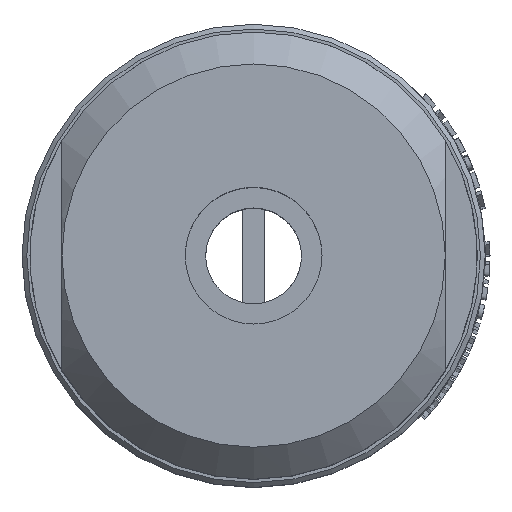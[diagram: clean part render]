
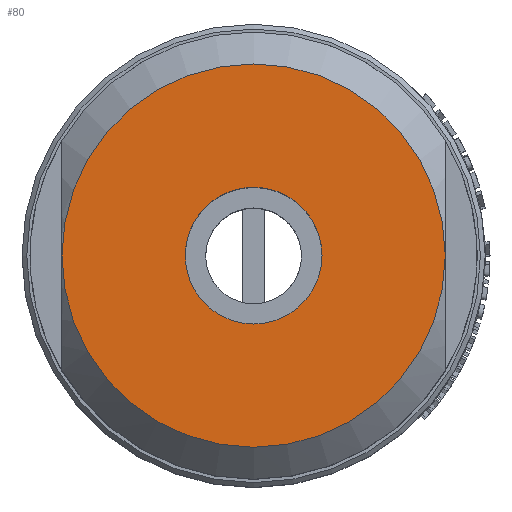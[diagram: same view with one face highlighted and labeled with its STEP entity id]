
A CAD part, top view. The second image highlights one B-rep face of the part: STEP entity #80.
In plain terms, the highlighted planar face has unit normal (0, 0, 1).
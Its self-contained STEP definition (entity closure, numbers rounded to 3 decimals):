
#80 = ADVANCED_FACE( '', ( #169, #170 ), #171, .F. );
#169 = FACE_BOUND( '', #291, .T. );
#170 = FACE_OUTER_BOUND( '', #292, .T. );
#171 = PLANE( '', #293 );
#291 = EDGE_LOOP( '', ( #632 ) );
#292 = EDGE_LOOP( '', ( #633, #634 ) );
#293 = AXIS2_PLACEMENT_3D( '', #635, #636, #637 );
#632 = ORIENTED_EDGE( '', *, *, #1269, .T. );
#633 = ORIENTED_EDGE( '', *, *, #1277, .T. );
#634 = ORIENTED_EDGE( '', *, *, #1278, .T. );
#635 = CARTESIAN_POINT( '', ( 12., 0., 8.1 ) );
#636 = DIRECTION( '', ( 0., 0., -1. ) );
#637 = DIRECTION( '', ( -1., 0., 0. ) );
#1269 = EDGE_CURVE( '', #4550, #4550, #4551, .T. );
#1277 = EDGE_CURVE( '', #4563, #4564, #4565, .T. );
#1278 = EDGE_CURVE( '', #4564, #4563, #4566, .T. );
#4550 = VERTEX_POINT( '', #6176 );
#4551 = CIRCLE( '', #6177, 4.283 );
#4563 = VERTEX_POINT( '', #6189 );
#4564 = VERTEX_POINT( '', #6190 );
#4565 = CIRCLE( '', #6191, 12. );
#4566 = CIRCLE( '', #6192, 12. );
#6176 = CARTESIAN_POINT( '', ( 0., -4.283, 8.1 ) );
#6177 = AXIS2_PLACEMENT_3D( '', #6857, #6858, #6859 );
#6189 = CARTESIAN_POINT( '', ( 0., 12., 8.1 ) );
#6190 = CARTESIAN_POINT( '', ( 0., -12., 8.1 ) );
#6191 = AXIS2_PLACEMENT_3D( '', #6872, #6873, #6874 );
#6192 = AXIS2_PLACEMENT_3D( '', #6875, #6876, #6877 );
#6857 = CARTESIAN_POINT( '', ( 0., 0., 8.1 ) );
#6858 = DIRECTION( '', ( 0., 0., -1. ) );
#6859 = DIRECTION( '', ( 0., -1., 0. ) );
#6872 = CARTESIAN_POINT( '', ( 0., 0., 8.1 ) );
#6873 = DIRECTION( '', ( 0., 0., 1. ) );
#6874 = DIRECTION( '', ( 1., 0., 0. ) );
#6875 = CARTESIAN_POINT( '', ( 0., 0., 8.1 ) );
#6876 = DIRECTION( '', ( 0., 0., 1. ) );
#6877 = DIRECTION( '', ( 1., 0., 0. ) );
